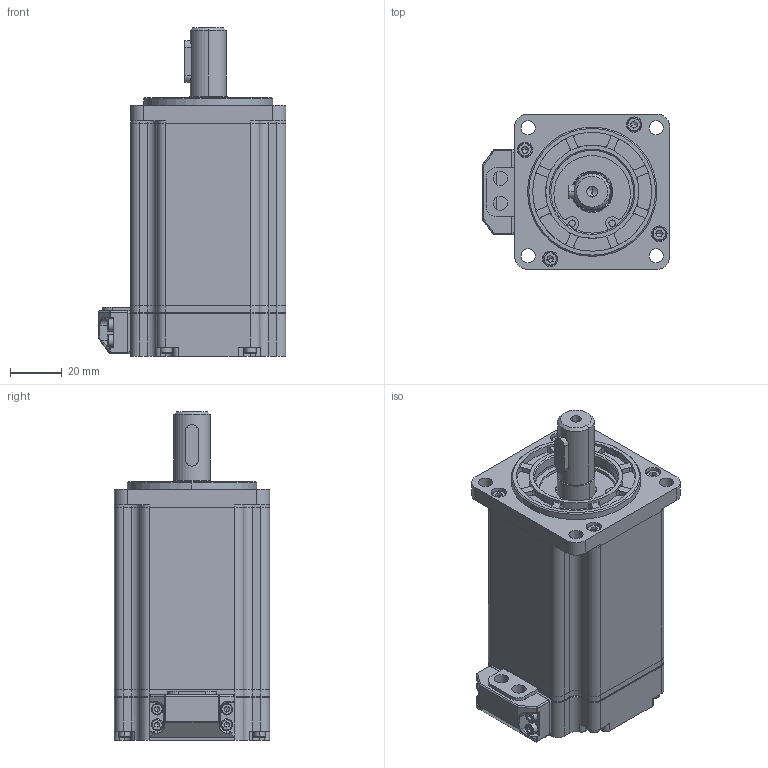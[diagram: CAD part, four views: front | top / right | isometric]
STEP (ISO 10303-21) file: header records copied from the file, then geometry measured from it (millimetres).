
FILE_DESCRIPTION (( 'STEP AP203' ), '1' );
FILE_NAME ('淕儂蚾饜.STEP', '2021-03-12T05:29:01', ( 'admin' ), ( '' ), 'SwSTEP 2.0', 'SolidWorks 2016', '' );
FILE_SCHEMA (( 'CONFIG_CONTROL_DESIGN' ));
Length unit declared in the file: millimetre
Products named in the file (1): 淕儂蚾饜
Bounding box: 72.5 x 60 x 127 mm (x, y, z)
Volume: 128013.8 mm3; surface area: 91387.3 mm2
Topology: 25 solids, 25 shells, 1261 faces, 3443 edges, 2180 vertices
Faces by surface type: cylinder 537, plane 465, cone 113, torus 90, sphere 46, bspline 10
Entity records: 41425 total; most frequent: CARTESIAN_POINT 9418, DIRECTION 6996, ORIENTED_EDGE 6568, EDGE_CURVE 3284, AXIS2_PLACEMENT_3D 2748, VERTEX_POINT 2116, LINE 1500, VECTOR 1500
